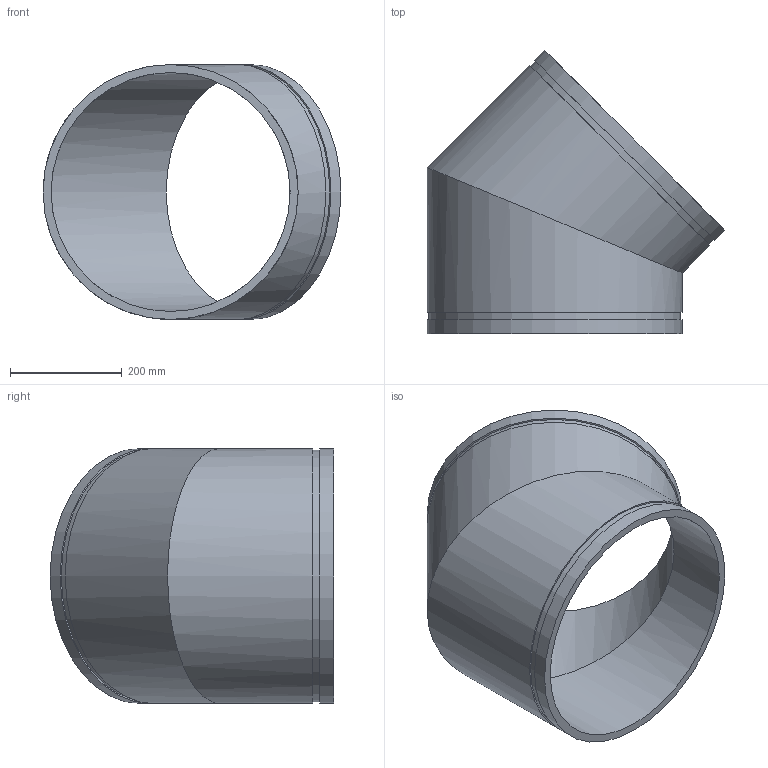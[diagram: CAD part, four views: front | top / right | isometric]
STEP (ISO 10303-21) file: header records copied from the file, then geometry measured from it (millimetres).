
FILE_DESCRIPTION(/* description */ ('VIC 45 DEG FABRICATED ELBOW No 11 SWS (OGS)','CAx-IF Rec.Pracs.---Representation and Presentation of Product Manufacturing Information (PMI)---4.0---2014-10-13'),/* implementation_level */ '2;1');
FILE_NAME(/* name */ 'C:\Users\kkamble\AppData\Roaming\Autodesk\ApplicationPlugins\Back Up\Victaulic_IPS_Elbow 45 Deg_No 11 SWS (OGS)\Victaulic_IPS_Elbow 45 Deg_No 11 SWS (OGS)_18 (450).stp',/* time_stamp */ '2020-09-16T22:15:12+06:00',/* author */ ('cgray'),/* organization */ ('Victaulic'),/* preprocessor_version */ 'ST-DEVELOPER v17.2',/* originating_system */ 'Autodesk Inventor 2019',/* authorisation */ '');
FILE_SCHEMA (('AP242_MANAGED_MODEL_BASED_3D_ENGINEERING_MIM_LF { 1 0 10303 442 1 1 4 }'));
Length unit declared in the file: inch
Products named in the file (1): 11 SWS-18.0
Bounding box: 533.93 x 508.53 x 457.2 mm (x, y, z)
Volume: 7985472.8 mm3; surface area: 1186172.1 mm2
Topology: 1 solids, 1 shells, 14 faces, 30 edges, 22 vertices
Faces by surface type: cylinder 8, plane 6
Full cylindrical faces by diameter (mm): 428.6 x2, 451.637 x2, 457.2 x4
Entity records: 554 total; most frequent: DIRECTION 108, CARTESIAN_POINT 84, ORIENTED_EDGE 60, AXIS2_PLACEMENT_3D 50, EDGE_CURVE 30, VERTEX_POINT 22, EDGE_LOOP 20, CIRCLE 16
